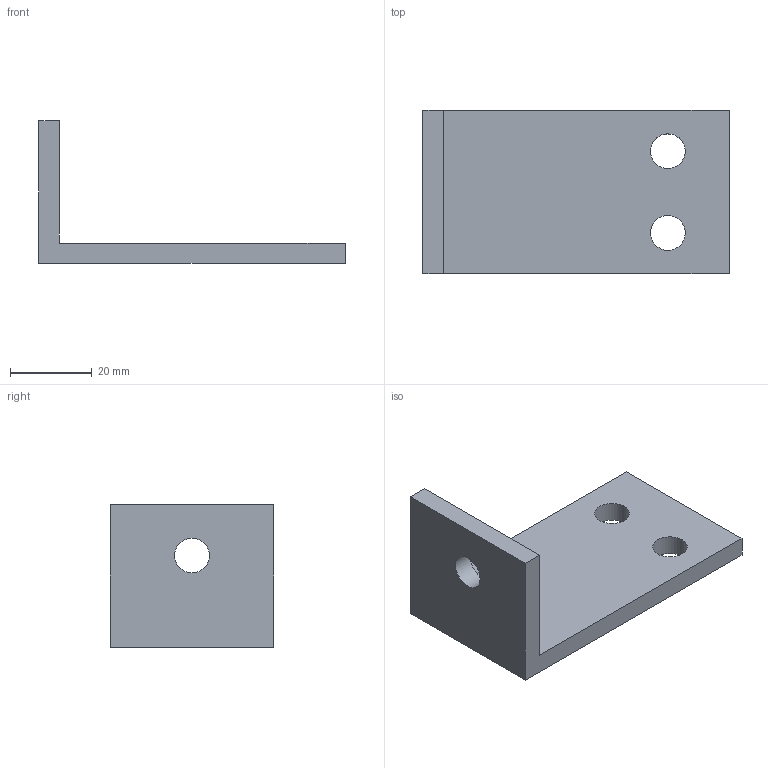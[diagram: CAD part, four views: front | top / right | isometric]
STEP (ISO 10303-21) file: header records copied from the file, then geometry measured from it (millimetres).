
FILE_DESCRIPTION(('Open CASCADE Model'),'2;1');
FILE_NAME('Open CASCADE Shape Model','2026-10-23T13:32:20',('Author'),( 'Open CASCADE'),'Open CASCADE STEP processor 7.8','Open CASCADE 7.8' ,'Unknown');
FILE_SCHEMA(('AUTOMOTIVE_DESIGN { 1 0 10303 214 1 1 1 1 }'));
Length unit declared in the file: millimetre
Products named in the file (1): Open CASCADE STEP translator 7.8 1
Bounding box: 75 x 40 x 35 mm (x, y, z)
Volume: 20148.8 mm3; surface area: 9910.1 mm2
Topology: 1 solids, 1 shells, 11 faces, 27 edges, 18 vertices
Faces by surface type: plane 8, cylinder 3
Full cylindrical faces by diameter (mm): 8.5 x3
Entity records: 700 total; most frequent: CARTESIAN_POINT 111, DIRECTION 111, LINE 69, VECTOR 69, ORIENTED_EDGE 54, PCURVE 54, DEFINITIONAL_REPRESENTATION 54, EDGE_CURVE 27
